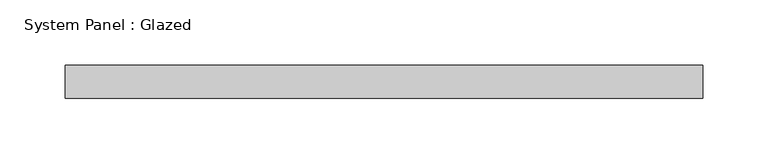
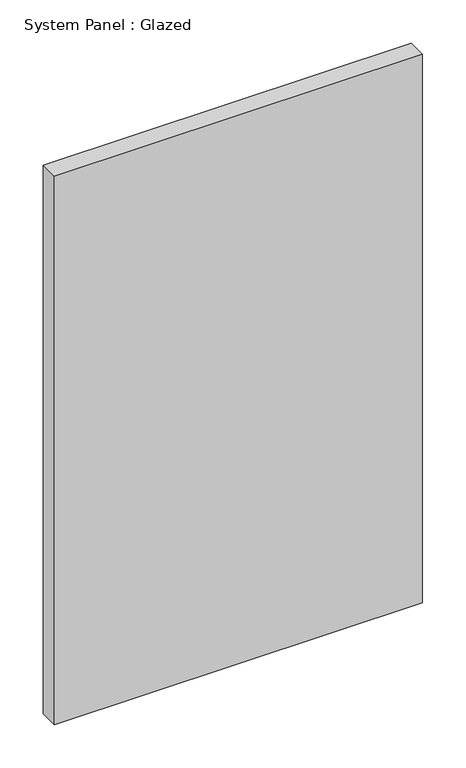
"""IFC4 building model written with IfcOpenShell, lengths in millimetres: plate geometry, System Panel : Glazed."""

from ifc_helpers import new_model, si_unit, origin, origin_with_axes, place, context, project, spatial, polyline, outline, extrude, source, transform, mapped, element, save


def system_panel_glazed_46c34380(model_context):
    return source(origin(), model_context, "Body", "SweptSolid", [
        extrude(outline(polyline([(244.475, -44.45), (-244.475, -44.45), (-244.475, -19.05), (244.475, -19.05), (244.475, -44.45)])), origin_with_axes(), (0.0, 0.0, 1.0), 770.6690025),
    ])


if __name__ == "__main__":
    model = new_model("IFC4")
    model_context = context("Model", 3, world=origin())
    ifc_project = project(units=[si_unit("LENGTHUNIT", "METRE", prefix="MILLI")], contexts=[model_context])
    site = spatial("IfcSite", under=ifc_project)
    building = spatial("IfcBuilding", under=site)
    placement = place(None, origin())
    system_panel_glazed_shape = system_panel_glazed_46c34380(model_context)
    element("IfcPlate", 1, ObjectType="System Panel : Glazed", at=placement, inside=building, context=model_context, shape_type="MappedRepresentation", body=[
        mapped(system_panel_glazed_shape, transform((0.0, 0.0, 0.0), x_axis=(1.0, 0.0, 0.0), y_axis=(0.0, 1.0, 0.0), z_axis=(0.0, 0.0, 1.0))),
    ])
    save(model, "model.ifc")
